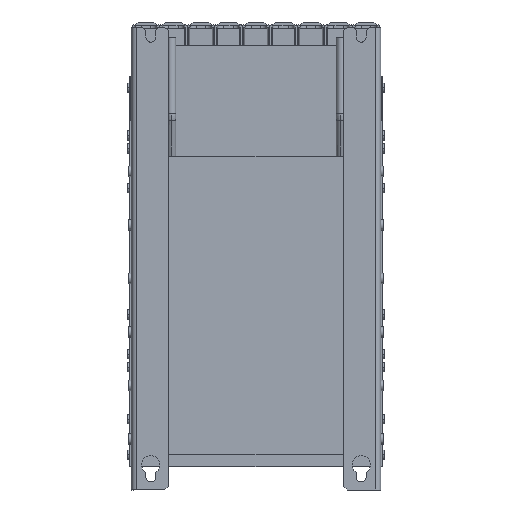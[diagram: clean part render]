
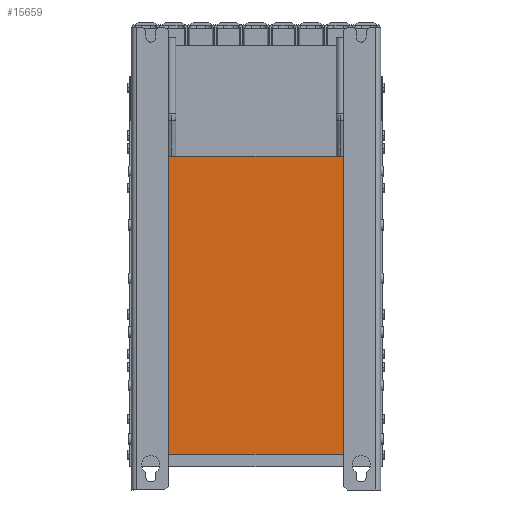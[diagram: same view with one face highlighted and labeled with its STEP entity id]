
A CAD part, front view. The second image highlights one B-rep face of the part: STEP entity #15659.
In plain terms, the highlighted planar face has unit normal (0, -1, 0).
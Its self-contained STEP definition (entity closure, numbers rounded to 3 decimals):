
#528 = CARTESIAN_POINT ( 'NONE',  ( 160., -25., 12. ) ) ;
#3490 = VECTOR ( 'NONE', #98361, 1000. ) ;
#8623 = VERTEX_POINT ( 'NONE', #28373 ) ;
#9211 = DIRECTION ( 'NONE',  ( 0., 0., -1. ) ) ;
#12622 = LINE ( 'NONE', #83604, #77596 ) ;
#15659 = ADVANCED_FACE ( 'NONE', ( #40270 ), #80197, .T. ) ;
#16316 = VECTOR ( 'NONE', #95635, 1000. ) ;
#28373 = CARTESIAN_POINT ( 'NONE',  ( -160., -25., 402. ) ) ;
#31530 = CARTESIAN_POINT ( 'NONE',  ( -160., -25., 12. ) ) ;
#31630 = LINE ( 'NONE', #528, #50279 ) ;
#32862 = CARTESIAN_POINT ( 'NONE',  ( 160., -25., 12. ) ) ;
#35938 = VERTEX_POINT ( 'NONE', #57295 ) ;
#36437 = DIRECTION ( 'NONE',  ( 0., 0., -1. ) ) ;
#40270 = FACE_OUTER_BOUND ( 'NONE', #76303, .T. ) ;
#41605 = VERTEX_POINT ( 'NONE', #31530 ) ;
#41862 = CARTESIAN_POINT ( 'NONE',  ( 163., -25., 12. ) ) ;
#48432 = LINE ( 'NONE', #72814, #16316 ) ;
#49093 = VERTEX_POINT ( 'NONE', #32862 ) ;
#50279 = VECTOR ( 'NONE', #63193, 1000. ) ;
#51688 = EDGE_CURVE ( 'NONE', #49093, #35938, #31630, .T. ) ;
#53874 = ORIENTED_EDGE ( 'NONE', *, *, #72348, .F. ) ;
#57295 = CARTESIAN_POINT ( 'NONE',  ( 160., -25., 402. ) ) ;
#58400 = LINE ( 'NONE', #41862, #3490 ) ;
#62589 = ORIENTED_EDGE ( 'NONE', *, *, #51688, .T. ) ;
#63193 = DIRECTION ( 'NONE',  ( 0., 0., 1. ) ) ;
#63573 = CARTESIAN_POINT ( 'NONE',  ( 163., -25., 728.957 ) ) ;
#65625 = ORIENTED_EDGE ( 'NONE', *, *, #97398, .T. ) ;
#72348 = EDGE_CURVE ( 'NONE', #49093, #41605, #58400, .T. ) ;
#72814 = CARTESIAN_POINT ( 'NONE',  ( 163., -25., 402. ) ) ;
#76303 = EDGE_LOOP ( 'NONE', ( #65625, #53874, #62589, #101126 ) ) ;
#77596 = VECTOR ( 'NONE', #36437, 1000. ) ;
#80197 = PLANE ( 'NONE',  #93139 ) ;
#80914 = EDGE_CURVE ( 'NONE', #35938, #8623, #48432, .T. ) ;
#83604 = CARTESIAN_POINT ( 'NONE',  ( -160., -25., 12. ) ) ;
#93139 = AXIS2_PLACEMENT_3D ( 'NONE', #63573, #95261, #9211 ) ;
#95261 = DIRECTION ( 'NONE',  ( 0., -1., 0. ) ) ;
#95635 = DIRECTION ( 'NONE',  ( -1., 0., 0. ) ) ;
#97398 = EDGE_CURVE ( 'NONE', #8623, #41605, #12622, .T. ) ;
#98361 = DIRECTION ( 'NONE',  ( -1., 0., 0. ) ) ;
#101126 = ORIENTED_EDGE ( 'NONE', *, *, #80914, .T. ) ;
